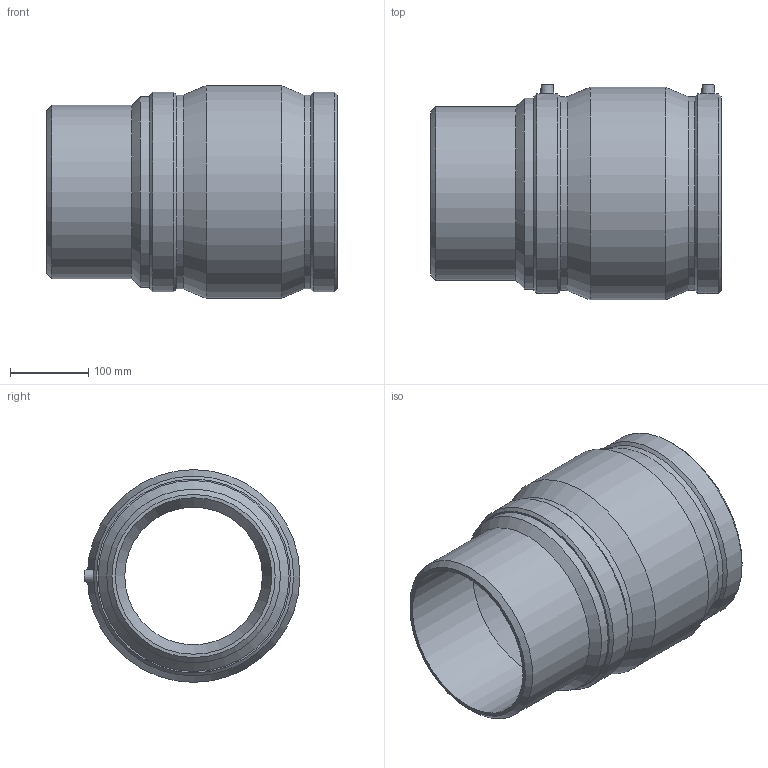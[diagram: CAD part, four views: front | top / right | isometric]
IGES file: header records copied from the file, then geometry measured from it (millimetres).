
Global section: file name: 495704225200.ipt; native system: Autodesk Inventor 2015; preprocessor: unknown; author: KIM; date: 20180502.161910; units: millimetre
Bounding box: 372 x 276 x 272 mm (x, y, z)
Volume: 6513610.6 mm3; surface area: 590693.3 mm2
Topology: 1 solids, 2 shells, 43 faces, 92 edges, 60 vertices
Faces by surface type: plane 13, cylinder 11, cone 10, revolution 9
Full cylindrical faces by diameter (mm): 4 x2, 222 x1, 225 x2, 244.2 x1, 248.01 x2, 255.68 x2, 272 x1
